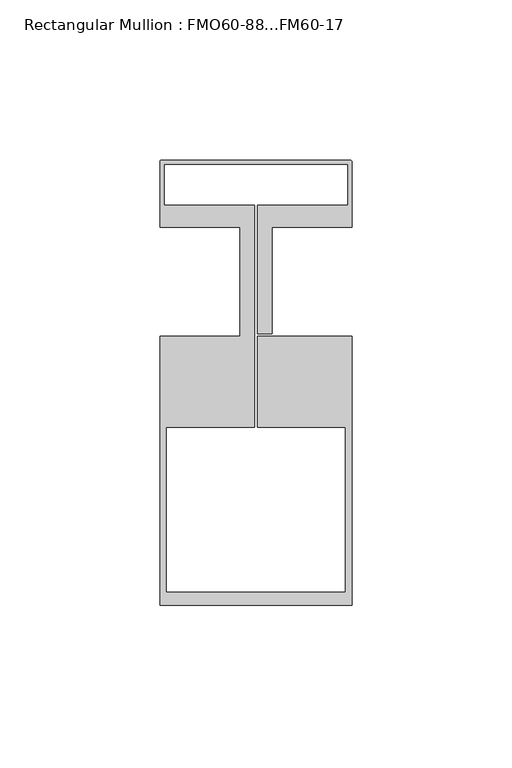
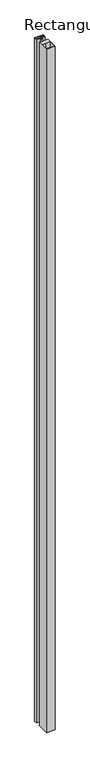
"""IFC4 building model written with IfcOpenShell, lengths in millimetres: member geometry, Rectangular Mullion : FMO60-88...FM60-17."""

from ifc_helpers import new_model, si_unit, point, frame, frame_2d, origin, place, context, project, spatial, polyline, circle_curve, trimmed, segment, composite_curve, outline, extrude, source, transform, mapped, element, save


def rectangular_mullion_fmo60_88_fm60_17_b492b851(model_context):
    return source(origin(), model_context, "Body", "SweptSolid", [
        extrude(outline(composite_curve([segment(trimmed(circle_curve(frame_2d((29.5, 37.5025783)), 0.5), [point((29.5, 38.0025783))], [point((30.0, 37.5025783))], False, "CARTESIAN"), True, "CONTINUOUS"), segment(polyline([(30.0, 37.5025783), (30.0, 17.0), (5.0, 17.0), (5.0, -16.2), (0.5, -16.2), (0.5, 23.8476589), (28.7, 23.8476589), (28.7, 36.7025783), (-28.7, 36.7025783), (-28.7, 23.8476589), (-0.5, 23.8476589), (-0.5, -45.5034642), (-28.0, -45.5034642), (-28.0, -97.009342), (28.0, -97.009342), (28.0, -45.5034642), (0.5, -45.5034642), (0.5, -17.0), (30.0, -17.0), (30.0, -101.009342), (-30.0, -101.009342), (-30.0, -17.0), (-5.0, -17.0), (-5.0, 17.0), (-30.0, 17.0), (-30.0, 37.5025783)]), True, "CONTINUOUS"), segment(trimmed(circle_curve(frame_2d((-29.5, 37.5025783)), 0.5), [point((-30.0, 37.5025783))], [point((-29.5, 38.0025783))], False, "CARTESIAN"), True, "CONTINUOUS"), segment(polyline([(-29.5, 38.0025783), (29.5, 38.0025783)]), True, "CONTINUOUS")], self_intersect=False)), frame((0.0, 0.0, -5000.0), z_axis=(0.0, 0.0, 1.0), x_axis=(1.0, 0.0, 0.0)), (0.0, 0.0, 1.0), 5000.0),
    ])


if __name__ == "__main__":
    model = new_model("IFC4")
    model_context = context("Model", 3, world=origin())
    ifc_project = project(units=[si_unit("LENGTHUNIT", "METRE", prefix="MILLI")], contexts=[model_context])
    site = spatial("IfcSite", under=ifc_project)
    building = spatial("IfcBuilding", under=site)
    placement = place(None, origin())
    rectangular_mullion_fmo60_88_fm60_17_shape = rectangular_mullion_fmo60_88_fm60_17_b492b851(model_context)
    element("IfcMember", 1, ObjectType="Rectangular Mullion : FMO60-88...FM60-17", at=placement, inside=building, context=model_context, shape_type="MappedRepresentation", body=[
        mapped(rectangular_mullion_fmo60_88_fm60_17_shape, transform((0.0, 0.0, 0.0), x_axis=(1.0, 0.0, 0.0), y_axis=(0.0, 1.0, 0.0), z_axis=(0.0, 0.0, 1.0))),
    ])
    save(model, "model.ifc")
